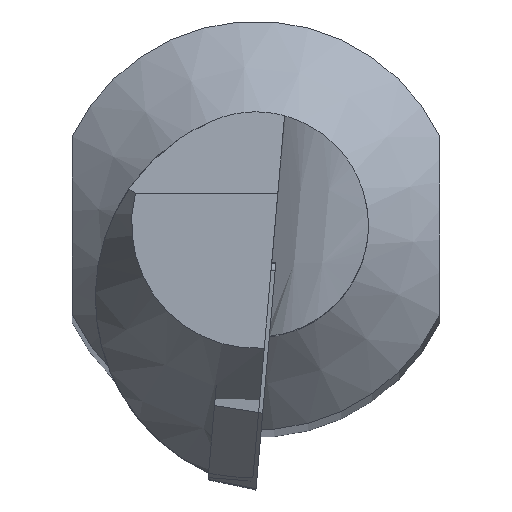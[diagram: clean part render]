
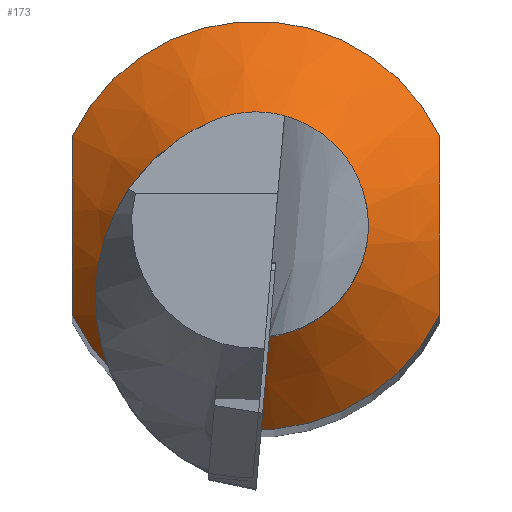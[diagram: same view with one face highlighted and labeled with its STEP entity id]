
A CAD part, top view. The second image highlights one B-rep face of the part: STEP entity #173.
In plain terms, the highlighted conical face has half-angle 45 degrees and reference radius 10 mm.
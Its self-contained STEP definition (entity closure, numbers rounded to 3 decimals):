
#104=B_SPLINE_CURVE_WITH_KNOTS('',3,(#780,#781,#782,#783,#784,#785),.UNSPECIFIED.,
 .F.,.F.,(4,2,4),(0.,0.5,1.),.UNSPECIFIED.);
#105=B_SPLINE_CURVE_WITH_KNOTS('',3,(#789,#790,#791,#792,#793,#794),.UNSPECIFIED.,
 .F.,.F.,(4,2,4),(0.,0.5,1.),.UNSPECIFIED.);
#126=FACE_BOUND('',#234,.T.);
#127=FACE_BOUND('',#235,.T.);
#138=CONICAL_SURFACE('',#524,10.,45.);
#147=CIRCLE('',#509,10.);
#151=CIRCLE('',#516,5.5);
#152=CIRCLE('',#523,10.);
#173=ADVANCED_FACE('',(#126,#127),#138,.T.);
#234=EDGE_LOOP('',(#322));
#235=EDGE_LOOP('',(#323,#324,#325,#326));
#322=ORIENTED_EDGE('',*,*,#425,.F.);
#323=ORIENTED_EDGE('',*,*,#413,.T.);
#324=ORIENTED_EDGE('',*,*,#433,.T.);
#325=ORIENTED_EDGE('',*,*,#434,.T.);
#326=ORIENTED_EDGE('',*,*,#435,.T.);
#370=VERTEX_POINT('',#699);
#371=VERTEX_POINT('',#701);
#382=VERTEX_POINT('',#754);
#384=VERTEX_POINT('',#786);
#385=VERTEX_POINT('',#788);
#413=EDGE_CURVE('',#371,#370,#147,.T.);
#425=EDGE_CURVE('',#382,#382,#151,.T.);
#433=EDGE_CURVE('',#370,#384,#104,.T.);
#434=EDGE_CURVE('',#384,#385,#152,.T.);
#435=EDGE_CURVE('',#385,#371,#105,.T.);
#509=AXIS2_PLACEMENT_3D('',#700,#586,#587);
#516=AXIS2_PLACEMENT_3D('',#753,#603,#604);
#523=AXIS2_PLACEMENT_3D('',#787,#621,#622);
#524=AXIS2_PLACEMENT_3D('',#795,#623,#624);
#586=DIRECTION('',(0.,0.,1.));
#587=DIRECTION('',(1.,0.,0.));
#603=DIRECTION('',(0.,0.,1.));
#604=DIRECTION('',(1.,0.,0.));
#621=DIRECTION('',(0.,0.,1.));
#622=DIRECTION('',(1.,0.,0.));
#623=DIRECTION('',(0.,0.,-1.));
#624=DIRECTION('',(-1.,0.,0.));
#699=CARTESIAN_POINT('',(-9.,4.359,-47.1));
#700=CARTESIAN_POINT('',(0.,0.,-47.1));
#701=CARTESIAN_POINT('',(9.,4.359,-47.1));
#753=CARTESIAN_POINT('',(0.,0.,-42.6));
#754=CARTESIAN_POINT('',(5.5,0.,-42.6));
#780=CARTESIAN_POINT('',(-9.,4.359,-47.1));
#781=CARTESIAN_POINT('',(-9.,2.977,-46.498));
#782=CARTESIAN_POINT('',(-9.,1.488,-46.099));
#783=CARTESIAN_POINT('',(-9.,-1.504,-46.101));
#784=CARTESIAN_POINT('',(-9.,-2.99,-46.503));
#785=CARTESIAN_POINT('',(-9.,-4.359,-47.1));
#786=CARTESIAN_POINT('',(-9.,-4.359,-47.1));
#787=CARTESIAN_POINT('',(0.,0.,-47.1));
#788=CARTESIAN_POINT('',(9.,-4.359,-47.1));
#789=CARTESIAN_POINT('',(9.,-4.359,-47.1));
#790=CARTESIAN_POINT('',(9.,-2.991,-46.504));
#791=CARTESIAN_POINT('',(9.,-1.49,-46.099));
#792=CARTESIAN_POINT('',(9.,1.507,-46.101));
#793=CARTESIAN_POINT('',(9.,2.983,-46.5));
#794=CARTESIAN_POINT('',(9.,4.359,-47.1));
#795=CARTESIAN_POINT('',(0.,0.,-47.1));
